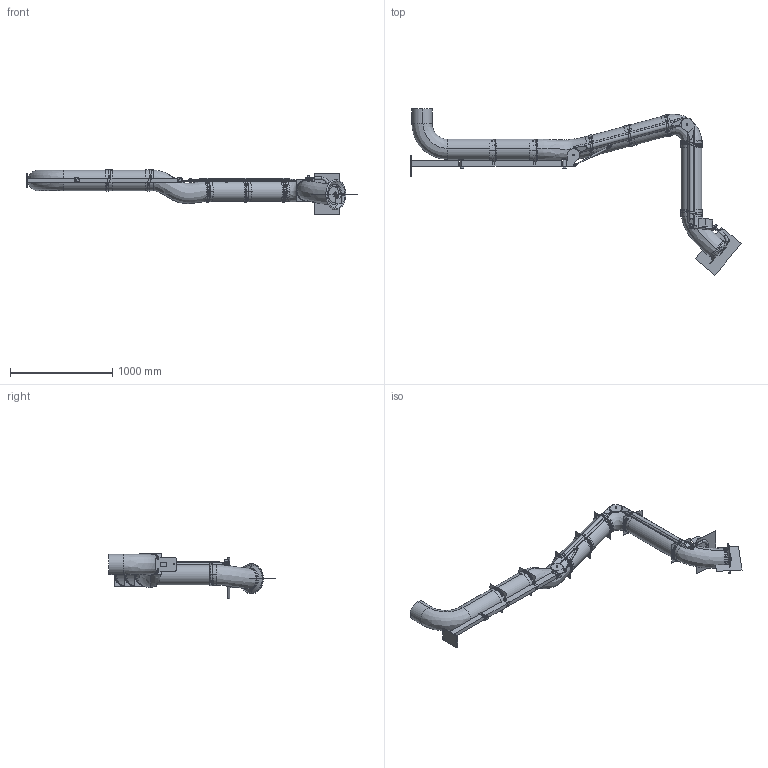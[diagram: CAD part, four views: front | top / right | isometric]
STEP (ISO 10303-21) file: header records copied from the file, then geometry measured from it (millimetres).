
FILE_DESCRIPTION((''),'2;1');
FILE_NAME('131026','2020-01-16T09:39:15',('Tomas Bellgran'),(''),'CREO PARAMETRIC BY PTC INC, 2018260','CREO PARAMETRIC BY PTC INC, 2018260','');
FILE_SCHEMA(('AUTOMOTIVE_DESIGN { 1 0 10303 214 1 1 1 1 }'));
Products named in the file (42): 131085_LIGHT; 131041; 131045_LIGHT; 131045; 144355; 131150; 139383; 131151; 131173; 144356; 131125_LIGHT; 131125; 131111_LIGHT; 131111; 131190_LIGHT; 131190; 130317; ROD_STAB_8-160-REF; 131095; 130322_AF28; 131145; 131131_AF0; 131134_AF0; 131139; 107526; 107556; 139617; 139618; 139616; 139615; 139614; 139620; 131136; 131137; 131138; 107526_AF4; 107526_AF5; SKRUVSATS_LITEN; SKRUVSATS_BIG; SKRUVSATS_LITEN-2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
Assembly tree (62 placements, depth 3):
  131026
    131041
      131085_LIGHT
    131045
      131045_LIGHT
    144355  x4
    131150
    131173
      139383
      131151
    144356  x2
    131125
      131125_LIGHT
    131111
      131111_LIGHT
    131190
      131190_LIGHT
    130322_AF28
      130317
      ROD_STAB_8-160-REF
      131095  x2
    131145  x2
    131139  x5
      131131_AF0
      131134_AF0
    107526  x5
    107556
    139620
      139617  x3
      139618
      139616
      139615
      139614
    131138  x2
      131136
      131137
    107526_AF4
    107526_AF5
    SKRUVSATS_LITEN  x2
    SKRUVSATS_BIG  x2
    SKRUVSATS_LITEN-2  x2
    SKRUVSATS_BIGGEST  x2
Bounding box: 3229.14 x 1623.53 x 441.33 mm (x, y, z)
Volume: 6613546 mm3; surface area: 5294734.2 mm2
Topology: 56 solids, 105 shells, 1546 faces, 3592 edges, 2197 vertices
Faces by surface type: cylinder 485, plane 482, bspline 434, torus 98, cone 34, extrusion 13
Entity records: 94785 total; most frequent: CARTESIAN_POINT 45933, POLYLINE 5532, DIRECTION 4603, ORIENTED_EDGE 3910, PRESENTATION_STYLE_ASSIGNMENT 2826, STYLED_ITEM 2783, CURVE_STYLE 2088, EDGE_CURVE 2062
